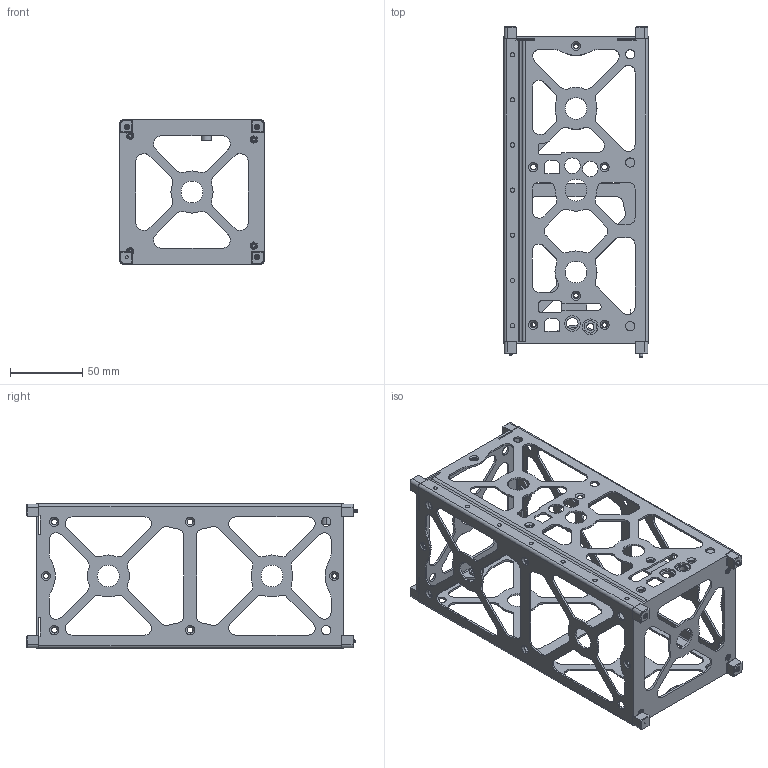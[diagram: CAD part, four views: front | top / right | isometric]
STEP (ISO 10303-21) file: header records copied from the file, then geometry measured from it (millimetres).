
FILE_DESCRIPTION (( 'STEP AP214' ), '1' );
FILE_NAME ('703-00291-E0 2U Chassis Skeleton.STEP', '2017-11-13T22:32:24', ( '' ), ( '' ), 'SwSTEP 2.0', 'SolidWorks 2014', '' );
FILE_SCHEMA (( 'AUTOMOTIVE_DESIGN' ));
Length unit declared in the file: inch
Products named in the file (2): 703-00291-E0 2U Chassis Skeleton
Bounding box: 100 x 229.55 x 100 mm (x, y, z)
Volume: 80146.4 mm3; surface area: 128303.4 mm2
Topology: 1 solids, 82 shells, 2705 faces, 6750 edges, 4114 vertices
Faces by surface type: cylinder 980, cone 842, plane 817, bspline 28, torus 22, sphere 16
Entity records: 83298 total; most frequent: DIRECTION 15054, CARTESIAN_POINT 14351, ORIENTED_EDGE 13492, EDGE_CURVE 6746, AXIS2_PLACEMENT_3D 5713, VERTEX_POINT 4114, VECTOR 3628, LINE 3628
